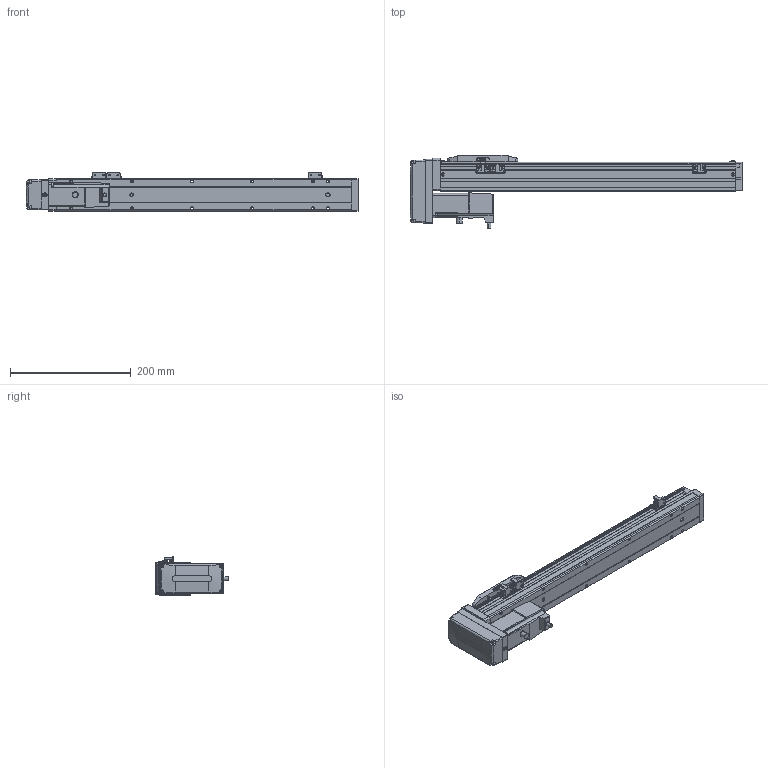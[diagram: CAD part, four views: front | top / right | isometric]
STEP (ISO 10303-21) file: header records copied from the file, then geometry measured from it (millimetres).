
FILE_DESCRIPTION (( 'STEP AP203' ), '1' );
FILE_NAME ('CTH5-L10-S350-BM-C10(¼ò).STEP', '2023-02-04T02:22:23', ( '' ), ( '' ), 'SwSTEP 2.0', 'SolidWorks 2018', '' );
FILE_SCHEMA (( 'CONFIG_CONTROL_DESIGN' ));
Length unit declared in the file: millimetre
Products named in the file (22): CTH5耜蚾欶; CTH5-BL-T10_body5; PM-Y45; 嫖萇羲壽郪磁1; CTH5綴耜啣; T10-p1; CTH5覜茼え; CTH5菁釱-L490; CTH嫖萇羲壽假蚾啣; M3｡｣; CTH5耜晚蹟隊-1; CTH5-L10-S350-BM-C10(潠); 内六角圆柱头螺钉M3-2; CTH5耜蚾蟀諉啣(潠); 葩璃 蚾饜极13^CTH8-L10-S50-BM-C40(潠)1; hex nuts, style 1-grades ab gb_GB_FASTENER_NUT_SNAB1 M3-N; CTH5賑怢; 100W萇儂; CTH5ヶ耜啣(潠); CTH100W假蚾啣; CTH5耜晚蹟隊; 葩璃 蚾饜极16^CTH5-L10-S350-BM-C10(潠)
Assembly tree (37 placements, depth 4):
  CTH5-L10-S350-BM-C10(潠)
    CTH5綴耜啣
    CTH5賑怢
    CTH5ヶ耜啣(潠)
    CTH5菁釱-L490
    CTH5耜晚蹟隊  x2
    嫖萇羲壽郪磁1  x2
      CTH嫖萇羲壽假蚾啣
      PM-Y45
      M3｡｣
      内六角圆柱头螺钉M3-2
      hex nuts, style 1-grades ab gb_GB_FASTENER_NUT_SNAB1 M3-N
    CTH5覜茼え
    葩璃 蚾饜极13^CTH8-L10-S50-BM-C40(潠)1
      CTH嫖萇羲壽假蚾啣
      PM-Y45
      内六角圆柱头螺钉M3-2  x2
      M3｡｣  x2
      hex nuts, style 1-grades ab gb_GB_FASTENER_NUT_SNAB1 M3-N  x2
    CTH5耜晚蹟隊-1  x4
    葩璃 蚾饜极16^CTH5-L10-S350-BM-C10(潠)
      CTH5耜蚾蟀諉啣(潠)
      CTH5耜蚾欶
        CTH5-BL-T10_body5
      100W萇儂
        T10-p1
      CTH100W假蚾啣
Bounding box: 550 x 122.21 x 63.3 mm (x, y, z)
Volume: 1454934 mm3; surface area: 221743.9 mm2
Topology: 39 solids, 39 shells, 1595 faces, 3999 edges, 2584 vertices
Faces by surface type: plane 890, cylinder 464, cone 183, torus 40, bspline 18
Entity records: 37069 total; most frequent: CARTESIAN_POINT 6864, DIRECTION 5843, ORIENTED_EDGE 5622, EDGE_CURVE 2811, AXIS2_PLACEMENT_3D 2006, VECTOR 1831, LINE 1831, VERTEX_POINT 1812
